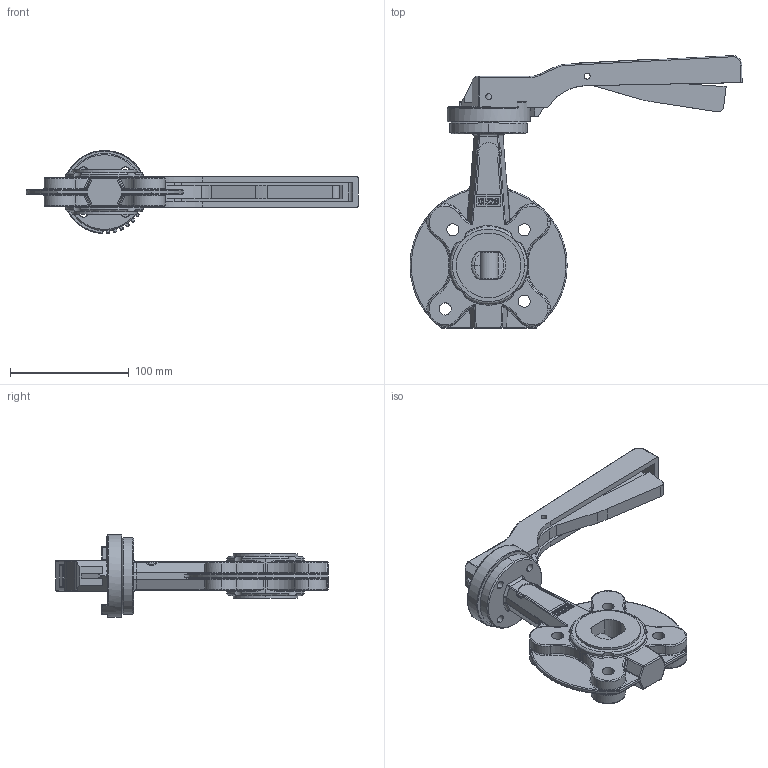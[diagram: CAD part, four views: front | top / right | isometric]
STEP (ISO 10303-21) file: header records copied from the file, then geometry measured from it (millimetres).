
FILE_DESCRIPTION (( 'STEP AP203' ), '1' );
FILE_NAME ('Lug Type DN25.STEP', '2021-04-26T15:24:25', ( '' ), ( '' ), 'SwSTEP 2.0', 'SolidWorks 2017', '' );
FILE_SCHEMA (( 'CONFIG_CONTROL_DESIGN' ));
Products named in the file (1): Lug Type DN25
Bounding box: 279.75 x 229.83 x 69.91 mm (x, y, z)
Volume: 453186.5 mm3; surface area: 102395.8 mm2
Topology: 1 solids, 2 shells, 1156 faces, 2928 edges, 1769 vertices
Faces by surface type: bspline 535, cylinder 339, plane 264, cone 18
Entity records: 60472 total; most frequent: CARTESIAN_POINT 36244, ORIENTED_EDGE 5750, DIRECTION 4066, EDGE_CURVE 2875, VERTEX_POINT 1769, AXIS2_PLACEMENT_3D 1519, EDGE_LOOP 1228, FACE_OUTER_BOUND 1156
